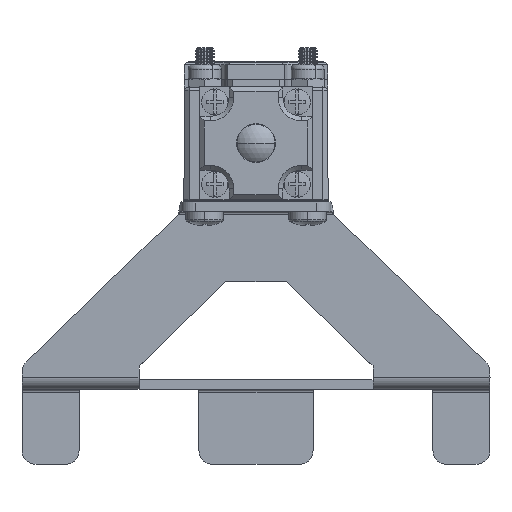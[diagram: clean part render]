
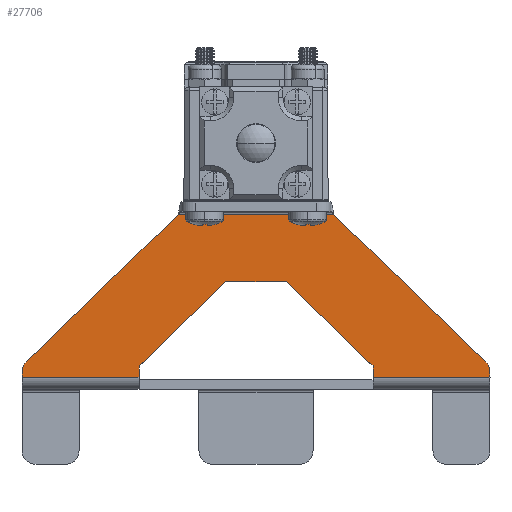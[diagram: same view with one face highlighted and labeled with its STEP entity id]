
A CAD part, top view. The second image highlights one B-rep face of the part: STEP entity #27706.
In plain terms, the highlighted planar face has unit normal (0, 0, 1) as drawn and (0, 1, 0) by its records, which use the part's own axes.
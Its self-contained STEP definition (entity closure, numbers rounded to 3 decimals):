
#434 = CARTESIAN_POINT ( 'NONE',  ( 16.619, -24.8, -2.6 ) ) ;
#1409 = AXIS2_PLACEMENT_3D ( 'NONE', #57986, #8935, #52632 ) ;
#1681 = ORIENTED_EDGE ( 'NONE', *, *, #69064, .F. ) ;
#1879 = ORIENTED_EDGE ( 'NONE', *, *, #20332, .T. ) ;
#3330 = VECTOR ( 'NONE', #66061, 1000. ) ;
#4272 = DIRECTION ( 'NONE',  ( -1., 0., 0. ) ) ;
#6044 = ORIENTED_EDGE ( 'NONE', *, *, #60450, .T. ) ;
#7066 = VECTOR ( 'NONE', #64123, 1000. ) ;
#7215 = EDGE_CURVE ( 'NONE', #32320, #11744, #25043, .T. ) ;
#8014 = CARTESIAN_POINT ( 'NONE',  ( 16.619, -24.8, -2.6 ) ) ;
#8935 = DIRECTION ( 'NONE',  ( 0., 1., 0. ) ) ;
#9205 = DIRECTION ( 'NONE',  ( 1., 0., 0. ) ) ;
#10548 = VERTEX_POINT ( 'NONE', #34292 ) ;
#10892 = DIRECTION ( 'NONE',  ( 0., 0., 1. ) ) ;
#11015 = CIRCLE ( 'NONE', #51039, 3. ) ;
#11316 = DIRECTION ( 'NONE',  ( 0., 0., -1. ) ) ;
#11744 = VERTEX_POINT ( 'NONE', #16363 ) ;
#12427 = VERTEX_POINT ( 'NONE', #8014 ) ;
#13432 = CARTESIAN_POINT ( 'NONE',  ( -25., -24.8, -34.95 ) ) ;
#13506 = CARTESIAN_POINT ( 'NONE',  ( -6.426, -24.8, -16.95 ) ) ;
#14965 = ORIENTED_EDGE ( 'NONE', *, *, #23531, .F. ) ;
#15174 = DIRECTION ( 'NONE',  ( 0.718, 0., -0.696 ) ) ;
#15262 = ORIENTED_EDGE ( 'NONE', *, *, #36984, .T. ) ;
#16102 = VECTOR ( 'NONE', #15174, 1000. ) ;
#16164 = DIRECTION ( 'NONE',  ( 0., 0., 1. ) ) ;
#16363 = CARTESIAN_POINT ( 'NONE',  ( -50., -24.8, -37.35 ) ) ;
#17815 = AXIS2_PLACEMENT_3D ( 'NONE', #33365, #43426, #16164 ) ;
#18417 = CARTESIAN_POINT ( 'NONE',  ( 6.75, -24.8, 6.965 ) ) ;
#18798 = LINE ( 'NONE', #13432, #63919 ) ;
#19443 = CARTESIAN_POINT ( 'NONE',  ( -6.75, -24.8, 6.965 ) ) ;
#19524 = ORIENTED_EDGE ( 'NONE', *, *, #66177, .F. ) ;
#20332 = EDGE_CURVE ( 'NONE', #66773, #27115, #65754, .T. ) ;
#21023 = EDGE_CURVE ( 'NONE', #53337, #53756, #51022, .T. ) ;
#21082 = FACE_OUTER_BOUND ( 'NONE', #53598, .T. ) ;
#21957 = VECTOR ( 'NONE', #9205, 1000. ) ;
#23429 = VECTOR ( 'NONE', #57053, 1000. ) ;
#23531 = EDGE_CURVE ( 'NONE', #10548, #45138, #18798, .T. ) ;
#23844 = EDGE_CURVE ( 'NONE', #12427, #35639, #49571, .T. ) ;
#24422 = CARTESIAN_POINT ( 'NONE',  ( 47., -24.8, -36.22 ) ) ;
#25043 = LINE ( 'NONE', #52292, #42354 ) ;
#25520 = ORIENTED_EDGE ( 'NONE', *, *, #27144, .T. ) ;
#25765 = CARTESIAN_POINT ( 'NONE',  ( 25., -24.8, -39.95 ) ) ;
#27115 = VERTEX_POINT ( 'NONE', #35270 ) ;
#27144 = EDGE_CURVE ( 'NONE', #12427, #30686, #50334, .T. ) ;
#27408 = ORIENTED_EDGE ( 'NONE', *, *, #21023, .T. ) ;
#27706 = ADVANCED_FACE ( 'NONE', ( #21082 ), #36159, .T. ) ;
#27905 = EDGE_CURVE ( 'NONE', #32320, #10548, #32225, .T. ) ;
#28397 = CARTESIAN_POINT ( 'NONE',  ( -50., -24.8, 0. ) ) ;
#29178 = DIRECTION ( 'NONE',  ( 0.718, 0., -0.696 ) ) ;
#29737 = CARTESIAN_POINT ( 'NONE',  ( 6.426, -24.8, -16.95 ) ) ;
#30606 = ORIENTED_EDGE ( 'NONE', *, *, #23844, .F. ) ;
#30632 = VERTEX_POINT ( 'NONE', #64872 ) ;
#30686 = VERTEX_POINT ( 'NONE', #36953 ) ;
#32225 = LINE ( 'NONE', #36912, #7066 ) ;
#32320 = VERTEX_POINT ( 'NONE', #48367 ) ;
#33365 = CARTESIAN_POINT ( 'NONE',  ( -47., -24.8, -36.22 ) ) ;
#33416 = VECTOR ( 'NONE', #29178, 1000. ) ;
#33984 = EDGE_CURVE ( 'NONE', #30686, #66773, #11015, .T. ) ;
#34292 = CARTESIAN_POINT ( 'NONE',  ( -25., -24.8, -34.95 ) ) ;
#35213 = LINE ( 'NONE', #19443, #23429 ) ;
#35270 = CARTESIAN_POINT ( 'NONE',  ( 50., -24.8, -37.35 ) ) ;
#35291 = DIRECTION ( 'NONE',  ( 0.718, 0., 0.696 ) ) ;
#35371 = LINE ( 'NONE', #13506, #21957 ) ;
#35639 = VERTEX_POINT ( 'NONE', #52839 ) ;
#36159 = PLANE ( 'NONE',  #1409 ) ;
#36912 = CARTESIAN_POINT ( 'NONE',  ( -25., -24.8, -39.95 ) ) ;
#36953 = CARTESIAN_POINT ( 'NONE',  ( 49.088, -24.8, -34.066 ) ) ;
#36984 = EDGE_CURVE ( 'NONE', #11744, #53337, #43851, .T. ) ;
#37285 = LINE ( 'NONE', #58750, #55603 ) ;
#38068 = VERTEX_POINT ( 'NONE', #29737 ) ;
#38551 = CARTESIAN_POINT ( 'NONE',  ( 50., -24.8, 0. ) ) ;
#39201 = EDGE_CURVE ( 'NONE', #45138, #38068, #35371, .T. ) ;
#40969 = DIRECTION ( 'NONE',  ( 0., 0., 1. ) ) ;
#41227 = DIRECTION ( 'NONE',  ( 0., 0., -1. ) ) ;
#41957 = CARTESIAN_POINT ( 'NONE',  ( -49.088, -24.8, -34.066 ) ) ;
#42354 = VECTOR ( 'NONE', #57303, 1000. ) ;
#43426 = DIRECTION ( 'NONE',  ( 0., 1., 0. ) ) ;
#43851 = LINE ( 'NONE', #28397, #59270 ) ;
#44052 = CARTESIAN_POINT ( 'NONE',  ( -6.426, -24.8, -16.95 ) ) ;
#45138 = VERTEX_POINT ( 'NONE', #44052 ) ;
#45604 = CARTESIAN_POINT ( 'NONE',  ( 25., -24.8, -34.95 ) ) ;
#47276 = LINE ( 'NONE', #25765, #69821 ) ;
#47778 = CARTESIAN_POINT ( 'NONE',  ( 6.426, -24.8, -16.95 ) ) ;
#47889 = ORIENTED_EDGE ( 'NONE', *, *, #33984, .T. ) ;
#48253 = ORIENTED_EDGE ( 'NONE', *, *, #27905, .F. ) ;
#48367 = CARTESIAN_POINT ( 'NONE',  ( -25., -24.8, -37.35 ) ) ;
#49571 = LINE ( 'NONE', #434, #3330 ) ;
#49799 = VECTOR ( 'NONE', #11316, 1000. ) ;
#50334 = LINE ( 'NONE', #18417, #33416 ) ;
#51022 = CIRCLE ( 'NONE', #17815, 3. ) ;
#51039 = AXIS2_PLACEMENT_3D ( 'NONE', #24422, #68188, #40969 ) ;
#51147 = ORIENTED_EDGE ( 'NONE', *, *, #61776, .T. ) ;
#52292 = CARTESIAN_POINT ( 'NONE',  ( 0., -24.8, -37.35 ) ) ;
#52632 = DIRECTION ( 'NONE',  ( 0., 0., 1. ) ) ;
#52839 = CARTESIAN_POINT ( 'NONE',  ( -16.619, -24.8, -2.6 ) ) ;
#53337 = VERTEX_POINT ( 'NONE', #60380 ) ;
#53598 = EDGE_LOOP ( 'NONE', ( #15262, #27408, #6044, #30606, #25520, #47889, #1879, #51147, #19524, #1681, #55672, #14965, #48253, #55877 ) ) ;
#53756 = VERTEX_POINT ( 'NONE', #41957 ) ;
#53853 = LINE ( 'NONE', #47778, #16102 ) ;
#54250 = VERTEX_POINT ( 'NONE', #45604 ) ;
#55603 = VECTOR ( 'NONE', #4272, 1000. ) ;
#55672 = ORIENTED_EDGE ( 'NONE', *, *, #39201, .F. ) ;
#55877 = ORIENTED_EDGE ( 'NONE', *, *, #7215, .T. ) ;
#57053 = DIRECTION ( 'NONE',  ( 0.718, 0., 0.696 ) ) ;
#57303 = DIRECTION ( 'NONE',  ( -1., 0., 0. ) ) ;
#57986 = CARTESIAN_POINT ( 'NONE',  ( 0., -24.8, 0. ) ) ;
#58750 = CARTESIAN_POINT ( 'NONE',  ( 0., -24.8, -37.35 ) ) ;
#59270 = VECTOR ( 'NONE', #10892, 1000. ) ;
#60380 = CARTESIAN_POINT ( 'NONE',  ( -50., -24.8, -36.22 ) ) ;
#60450 = EDGE_CURVE ( 'NONE', #53756, #35639, #35213, .T. ) ;
#61776 = EDGE_CURVE ( 'NONE', #27115, #30632, #37285, .T. ) ;
#63919 = VECTOR ( 'NONE', #35291, 1000. ) ;
#64123 = DIRECTION ( 'NONE',  ( 0., 0., 1. ) ) ;
#64872 = CARTESIAN_POINT ( 'NONE',  ( 25., -24.8, -37.35 ) ) ;
#65754 = LINE ( 'NONE', #38551, #49799 ) ;
#66061 = DIRECTION ( 'NONE',  ( -1., 0., 0. ) ) ;
#66177 = EDGE_CURVE ( 'NONE', #54250, #30632, #47276, .T. ) ;
#66773 = VERTEX_POINT ( 'NONE', #69248 ) ;
#68188 = DIRECTION ( 'NONE',  ( 0., 1., 0. ) ) ;
#69064 = EDGE_CURVE ( 'NONE', #38068, #54250, #53853, .T. ) ;
#69248 = CARTESIAN_POINT ( 'NONE',  ( 50., -24.8, -36.22 ) ) ;
#69821 = VECTOR ( 'NONE', #41227, 1000. ) ;
